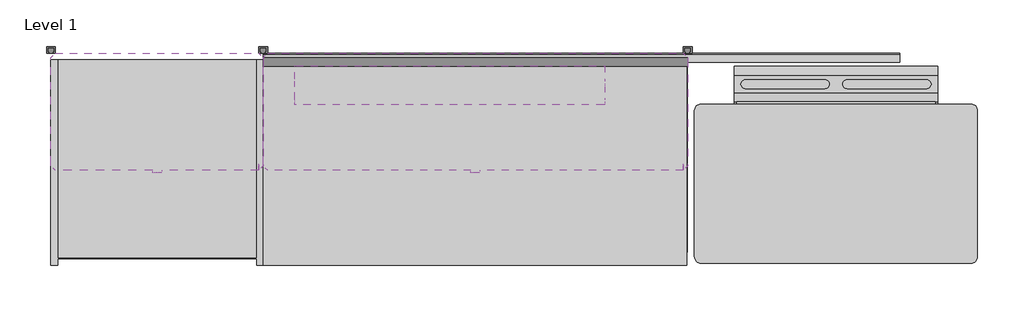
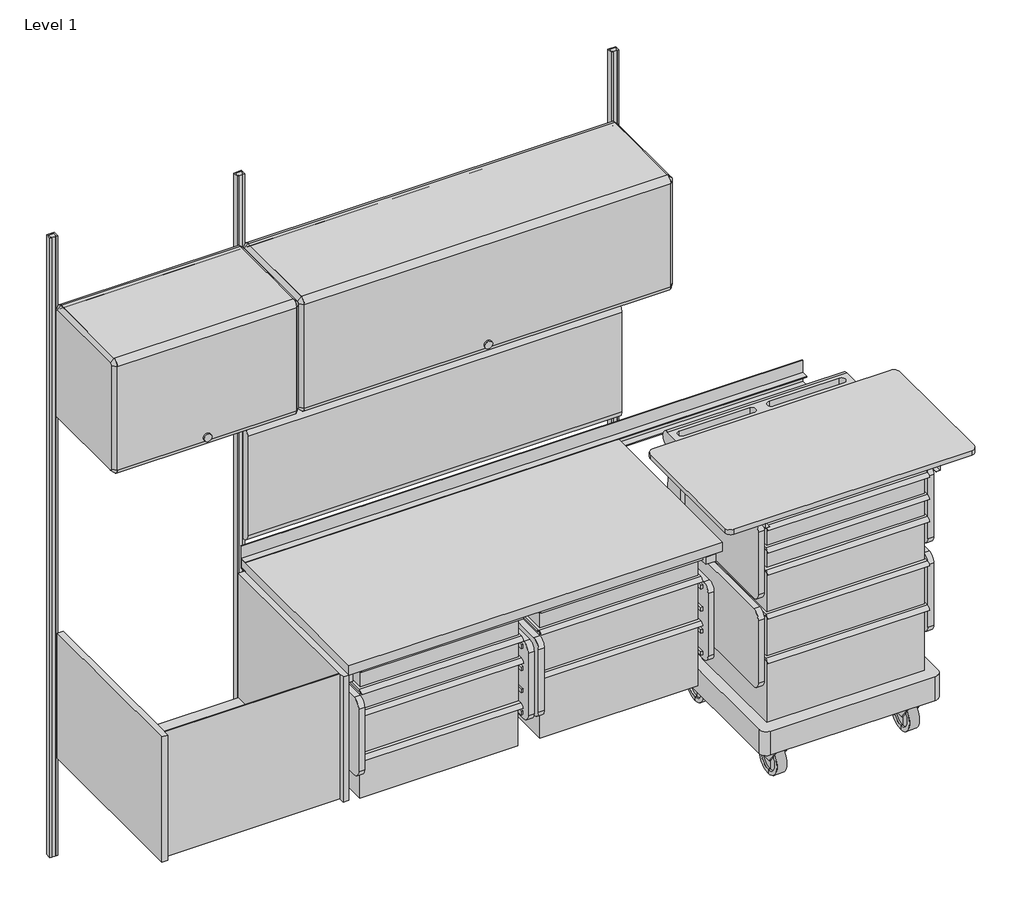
# One storey, incomplete: 28 furniture elements, 1 light fixture.
"""IFC4 building model written with IfcOpenShell, lengths in millimetres."""

from ifc_helpers import new_model, si_unit, origin, place, context, project, spatial, transform, mapped, element, save
from components import furniture_d92eedc3, furniture_cf1839e9, furniture_645566ab, furniture_ddd7d6d3, furniture_545f82d3, furniture_de886b3f, furniture_b99f520c, furniture_2c2a0f93, furniture_fc90cfd9, furniture_e09989cd, furniture_6c0513ad, furniture_96cbcaf7, furniture_ea425779, a_3_f482e030, a_3_189406c7, a_3_20021f84, a_3_c1a7feba, b_6_92a8d064, b_6_520a1b3d, b_6_334becb9, b_6_3d2ec204, b_6_ad6fc926, c_9_607037d1, c_9_16105775, light_fixture_843a8269

model = new_model("IFC4")

# Units and contexts
model_context = context("Model", 3, world=origin())
ifc_project = project(units=[si_unit("LENGTHUNIT", "METRE", prefix="MILLI")], contexts=[model_context])

# Site, building, storey
site = spatial("IfcSite", under=ifc_project)
building = spatial("IfcBuilding", under=site)
storey = spatial("IfcBuildingStorey", under=building, Name="Level 1", Elevation=0.0)

# Furniture
placement = place(None, origin())
furniture_shape = furniture_d92eedc3(model_context)
element("IfcFurniture", 1, ObjectType="HermanMiller_CoStruc_C2910_WorkSurfaceBacksplash : 3\"H x 72\"W", at=placement, inside=storey, context=model_context, shape_type="MappedRepresentation", body=[
    mapped(furniture_shape, transform((1524.0, -19.05, 0.0), x_axis=(1.0, 0.0, 0.0), y_axis=(0.0, 1.0, 0.0), z_axis=(0.0, 0.0, 1.0))),
])
furniture_2_shape = furniture_cf1839e9(model_context)
element("IfcFurniture", 2, ObjectType="HermanMiller_CoStruc_CO205_CFrame : 10\"H x 17\"D x 22\"W", at=placement, inside=storey, context=model_context, shape_type="MappedRepresentation", body=[
    mapped(furniture_2_shape, transform((2160.0311151, -227.1463997, 0.0), x_axis=(1.0, 0.0, 0.0), y_axis=(0.0, 1.0, 0.0), z_axis=(0.0, 0.0, 1.0))),
])
furniture_3_shape = furniture_645566ab(model_context)
element("IfcFurniture", 3, ObjectType="HermanMiller_CoStruc_CO555_CounterTop : 18\"D x 32\"W", at=placement, inside=storey, context=model_context, shape_type="MappedRepresentation", body=[
    mapped(furniture_3_shape, transform((2254.96882, -393.65428, 0.0), x_axis=(1.0, 0.0, 0.0), y_axis=(0.0, 1.0, 0.0), z_axis=(0.0, 0.0, 1.0))),
])
furniture_4_shape = furniture_ddd7d6d3(model_context)
element("IfcFurniture", 4, ObjectType="HermanMiller_CoStruc_CO205_CFrame : 10\"H x 17\"D x 22\"W", at=placement, inside=storey, context=model_context, shape_type="MappedRepresentation", body=[
    mapped(furniture_4_shape, transform((2160.0311151, -227.1463997, 0.0), x_axis=(1.0, 0.0, 0.0), y_axis=(0.0, 1.0, 0.0), z_axis=(0.0, 0.0, 1.0))),
])
furniture_5_shape = furniture_545f82d3(model_context)
element("IfcFurniture", 5, ObjectType="HermanMiller_CoStruc_CO212_LCart : 36\"H x 23\"W Std", at=placement, inside=storey, context=model_context, shape_type="MappedRepresentation", body=[
    mapped(furniture_5_shape, transform((2254.96882, -339.67928, 0.0), x_axis=(1.0, 0.0, 0.0), y_axis=(0.0, 1.0, 0.0), z_axis=(0.0, 0.0, 1.0))),
])
furniture_6_shape = furniture_de886b3f(model_context)
element("IfcFurniture", 6, ObjectType="HermanMiller_CoStruc_C2141_Heavy-DutyWorkSurface : 24\"D x 48\"W Lam", at=placement, inside=storey, context=model_context, shape_type="MappedRepresentation", body=[
    mapped(furniture_6_shape, transform((912.83536, -196.85, 0.0), x_axis=(1.0, 0.0, 0.0), y_axis=(0.0, 1.0, 0.0), z_axis=(0.0, 0.0, 1.0))),
])
furniture_7_shape = furniture_b99f520c(model_context)
element("IfcFurniture", 7, ObjectType="HermanMiller_CoStruc_C2140W_WorkSurfaceSupport_ComponentAdaptor : 14\"H x 24\"D x 48\"W", at=placement, inside=storey, context=model_context, shape_type="MappedRepresentation", body=[
    mapped(furniture_7_shape, transform((1219.2, -196.85, 0.0), x_axis=(1.0, 0.0, 0.0), y_axis=(0.0, 1.0, 0.0), z_axis=(0.0, 0.0, 1.0))),
])
furniture_8_shape = furniture_2c2a0f93(model_context)
element("IfcFurniture", 8, ObjectType="HermanMiller_CoStruc_CO205_CFrame : 10\"H x 17\"D x 22\"W", at=placement, inside=storey, context=model_context, shape_type="MappedRepresentation", body=[
    mapped(furniture_8_shape, transform((832.1622951, -271.6421197, 0.0), x_axis=(1.0, 0.0, 0.0), y_axis=(0.0, 1.0, 0.0), z_axis=(0.0, 0.0, 1.0))),
])
element("IfcFurniture", 9, ObjectType="HermanMiller_CoStruc_CO205_CFrame : 10\"H x 17\"D x 22\"W", at=placement, inside=storey, context=model_context, shape_type="MappedRepresentation", body=[
    mapped(furniture_8_shape, transform((1418.0437751, -271.6421197, 0.0), x_axis=(1.0, 0.0, 0.0), y_axis=(0.0, 1.0, 0.0), z_axis=(0.0, 0.0, 1.0))),
])
furniture_9_shape = furniture_fc90cfd9(model_context)
element("IfcFurniture", 10, ObjectType="HermanMiller_CoStruc_C2512_SinkModule : 18\"H x 24\"D x 24\"W", at=placement, inside=storey, context=model_context, shape_type="MappedRepresentation", body=[
    mapped(furniture_9_shape, transform((304.8, -206.375, 0.0), x_axis=(1.0, 0.0, 0.0), y_axis=(0.0, 1.0, 0.0), z_axis=(0.0, 0.0, 1.0))),
])
furniture_10_shape = furniture_e09989cd(model_context)
element("IfcFurniture", 11, ObjectType="HermanMiller_ActionOffice_A3410_B-StyleTackboard : 16\"H x 48\"W", at=placement, inside=storey, context=model_context, shape_type="MappedRepresentation", body=[
    mapped(furniture_10_shape, transform((1219.2, -44.45, 0.0), x_axis=(1.0, 0.0, 0.0), y_axis=(0.0, 1.0, 0.0), z_axis=(0.0, 0.0, 1.0))),
])
furniture_11_shape = furniture_6c0513ad(model_context)
element("IfcFurniture", 12, ObjectType="HermanMiller_ActionOffice_A3352_B-StyleFlipperDoorUnit : 15 1/2\"H x 13\"D x 24\"W", at=placement, inside=storey, context=model_context, shape_type="MappedRepresentation", body=[
    mapped(furniture_11_shape, transform((304.8, -200.025, 0.0), x_axis=(1.0, 0.0, 0.0), y_axis=(0.0, 1.0, 0.0), z_axis=(0.0, 0.0, 1.0))),
])
furniture_12_shape = furniture_96cbcaf7(model_context)
element("IfcFurniture", 13, ObjectType="HermanMiller_ActionOffice_A3352_B-StyleFlipperDoorUnit : 15 1/2\"H x 13\"D x 48\"W", at=placement, inside=storey, context=model_context, shape_type="MappedRepresentation", body=[
    mapped(furniture_12_shape, transform((1219.2, -200.025, 0.0), x_axis=(1.0, 0.0, 0.0), y_axis=(0.0, 1.0, 0.0), z_axis=(0.0, 0.0, 1.0))),
])
furniture_13_shape = furniture_ea425779(model_context)
element("IfcFurniture", 14, ObjectType="HermanMiller_ActionOffice_AO213_WallStrip : 84\"H", at=placement, inside=storey, context=model_context, shape_type="MappedRepresentation", body=[
    mapped(furniture_13_shape, transform((609.6, 0.0, 0.0), x_axis=(1.0, 0.0, 0.0), y_axis=(0.0, 1.0, 0.0), z_axis=(0.0, 0.0, 1.0))),
])
element("IfcFurniture", 15, ObjectType="HermanMiller_ActionOffice_AO213_WallStrip : 84\"H", at=placement, inside=storey, context=model_context, shape_type="MappedRepresentation", body=[
    mapped(furniture_13_shape, transform((1828.8, 0.0, 0.0), x_axis=(1.0, 0.0, 0.0), y_axis=(0.0, 1.0, 0.0), z_axis=(0.0, 0.0, 1.0))),
])
element("IfcFurniture", 16, ObjectType="HermanMiller_ActionOffice_AO213_WallStrip : 84\"H", at=placement, inside=storey, context=model_context, shape_type="MappedRepresentation", body=[
    mapped(furniture_13_shape, transform((0.0, 0.0, 0.0), x_axis=(1.0, 0.0, 0.0), y_axis=(0.0, 1.0, 0.0), z_axis=(0.0, 0.0, 1.0))),
])
a_3_shape = a_3_f482e030(model_context)
element("IfcFurniture", 17, ObjectType="HermanMiller_CoStruc_CO207_Drawer : A - 3", at=placement, inside=storey, context=model_context, shape_type="MappedRepresentation", body=[
    mapped(a_3_shape, transform((2254.9014717, -404.8379, 0.0), x_axis=(1.0, 0.0, 0.0), y_axis=(0.0, 1.0, 0.0), z_axis=(0.0, 0.0, 1.0))),
])
a_3_2_shape = a_3_189406c7(model_context)
element("IfcFurniture", 18, ObjectType="HermanMiller_CoStruc_CO207_Drawer : A - 3", at=placement, inside=storey, context=model_context, shape_type="MappedRepresentation", body=[
    mapped(a_3_2_shape, transform((2254.9014717, -404.8379, 0.0), x_axis=(1.0, 0.0, 0.0), y_axis=(0.0, 1.0, 0.0), z_axis=(0.0, 0.0, 1.0))),
])
a_3_3_shape = a_3_20021f84(model_context)
element("IfcFurniture", 19, ObjectType="HermanMiller_CoStruc_CO207_Drawer : A - 3", at=placement, inside=storey, context=model_context, shape_type="MappedRepresentation", body=[
    mapped(a_3_3_shape, transform((923.4893517, -419.20922, 0.0), x_axis=(1.0, 0.0, 0.0), y_axis=(0.0, 1.0, 0.0), z_axis=(0.0, 0.0, 1.0))),
])
a_3_4_shape = a_3_c1a7feba(model_context)
element("IfcFurniture", 20, ObjectType="HermanMiller_CoStruc_CO207_Drawer : A - 3", at=placement, inside=storey, context=model_context, shape_type="MappedRepresentation", body=[
    mapped(a_3_4_shape, transform((1507.7833317, -419.20922, 0.0), x_axis=(1.0, 0.0, 0.0), y_axis=(0.0, 1.0, 0.0), z_axis=(0.0, 0.0, 1.0))),
])
element("IfcFurniture", 21, ObjectType="HermanMiller_CoStruc_CO207_Drawer : A - 3", at=placement, inside=storey, context=model_context, shape_type="MappedRepresentation", body=[
    mapped(a_3_4_shape, transform((923.4893517, -419.20922, 0.0), x_axis=(1.0, 0.0, 0.0), y_axis=(0.0, 1.0, 0.0), z_axis=(0.0, 0.0, 1.0))),
])
b_6_shape = b_6_92a8d064(model_context)
element("IfcFurniture", 22, ObjectType="HermanMiller_CoStruc_CO207_Drawer : B - 6", at=placement, inside=storey, context=model_context, shape_type="MappedRepresentation", body=[
    mapped(b_6_shape, transform((2254.9014717, -404.8379, 0.0), x_axis=(1.0, 0.0, 0.0), y_axis=(0.0, 1.0, 0.0), z_axis=(0.0, 0.0, 1.0))),
])
b_6_2_shape = b_6_520a1b3d(model_context)
element("IfcFurniture", 23, ObjectType="HermanMiller_CoStruc_CO207_Drawer : B - 6", at=placement, inside=storey, context=model_context, shape_type="MappedRepresentation", body=[
    mapped(b_6_2_shape, transform((2254.9014717, -404.8379, 0.0), x_axis=(1.0, 0.0, 0.0), y_axis=(0.0, 1.0, 0.0), z_axis=(0.0, 0.0, 1.0))),
])
b_6_3_shape = b_6_334becb9(model_context)
element("IfcFurniture", 24, ObjectType="HermanMiller_CoStruc_CO207_Drawer : B - 6", at=placement, inside=storey, context=model_context, shape_type="MappedRepresentation", body=[
    mapped(b_6_3_shape, transform((1507.7833317, -419.20922, 0.0), x_axis=(1.0, 0.0, 0.0), y_axis=(0.0, 1.0, 0.0), z_axis=(0.0, 0.0, 1.0))),
])
b_6_4_shape = b_6_3d2ec204(model_context)
element("IfcFurniture", 25, ObjectType="HermanMiller_CoStruc_CO207_Drawer : B - 6", at=placement, inside=storey, context=model_context, shape_type="MappedRepresentation", body=[
    mapped(b_6_4_shape, transform((923.4893517, -419.20922, 0.0), x_axis=(1.0, 0.0, 0.0), y_axis=(0.0, 1.0, 0.0), z_axis=(0.0, 0.0, 1.0))),
])
b_6_5_shape = b_6_ad6fc926(model_context)
element("IfcFurniture", 26, ObjectType="HermanMiller_CoStruc_CO207_Drawer : B - 6", at=placement, inside=storey, context=model_context, shape_type="MappedRepresentation", body=[
    mapped(b_6_5_shape, transform((921.9018517, -419.20922, 0.0), x_axis=(1.0, 0.0, 0.0), y_axis=(0.0, 1.0, 0.0), z_axis=(0.0, 0.0, 1.0))),
])
c_9_shape = c_9_607037d1(model_context)
element("IfcFurniture", 27, ObjectType="HermanMiller_CoStruc_CO207_Drawer : C - 9", at=placement, inside=storey, context=model_context, shape_type="MappedRepresentation", body=[
    mapped(c_9_shape, transform((2254.9014717, -404.8379, 0.0), x_axis=(1.0, 0.0, 0.0), y_axis=(0.0, 1.0, 0.0), z_axis=(0.0, 0.0, 1.0))),
])
c_9_2_shape = c_9_16105775(model_context)
element("IfcFurniture", 28, ObjectType="HermanMiller_CoStruc_CO207_Drawer : C - 9", at=placement, inside=storey, context=model_context, shape_type="MappedRepresentation", body=[
    mapped(c_9_2_shape, transform((1507.7833317, -419.20922, 0.0), x_axis=(1.0, 0.0, 0.0), y_axis=(0.0, 1.0, 0.0), z_axis=(0.0, 0.0, 1.0))),
])

# Light fixture
light_fixture_shape = light_fixture_843a8269(model_context)
element("IfcLightFixture", 29, ObjectType="HermanMiller_SupplementalProducts_G6136_UtilityTaskLight : AO Etho Canvas 42W", at=placement, inside=storey, context=model_context, shape_type="MappedRepresentation", body=[
    mapped(light_fixture_shape, transform((1145.75336, -111.125, 0.0), x_axis=(1.0, 0.0, 0.0), y_axis=(0.0, 1.0, 0.0), z_axis=(0.0, 0.0, 1.0))),
])

save(model, "model.ifc")
